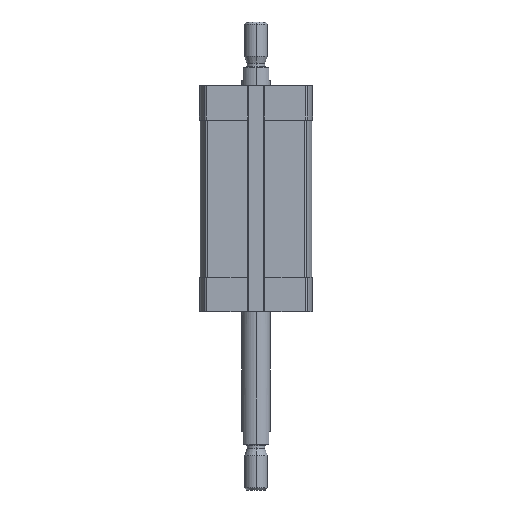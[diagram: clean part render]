
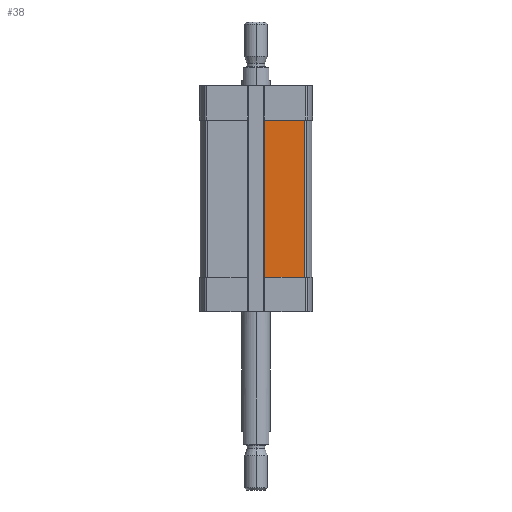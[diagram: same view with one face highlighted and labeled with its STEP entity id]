
A CAD part, left-side view. The second image highlights one B-rep face of the part: STEP entity #38.
In plain terms, the highlighted planar face has unit normal (-1, 0, 0).
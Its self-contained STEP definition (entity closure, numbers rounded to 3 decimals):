
#38 = ADVANCED_FACE ( 'NONE', ( #5824 ), #4008, .T. ) ;
#55 = VECTOR ( 'NONE', #378, 1000. ) ;
#378 = DIRECTION ( 'NONE',  ( 0., 0., 1. ) ) ;
#671 = DIRECTION ( 'NONE',  ( -1., 0., 0. ) ) ;
#1326 = VECTOR ( 'NONE', #9097, 1000. ) ;
#1385 = ORIENTED_EDGE ( 'NONE', *, *, #5516, .T. ) ;
#1822 = DIRECTION ( 'NONE',  ( 0., 0., 1. ) ) ;
#1885 = ORIENTED_EDGE ( 'NONE', *, *, #3596, .F. ) ;
#2138 = VECTOR ( 'NONE', #6248, 1000. ) ;
#2330 = DIRECTION ( 'NONE',  ( 0., -1., 0. ) ) ;
#2571 = CARTESIAN_POINT ( 'NONE',  ( -19.5, -17.091, -12. ) ) ;
#3091 = VERTEX_POINT ( 'NONE', #2571 ) ;
#3240 = CARTESIAN_POINT ( 'NONE',  ( -19.5, -3.1, -67. ) ) ;
#3346 = LINE ( 'NONE', #7333, #2138 ) ;
#3596 = EDGE_CURVE ( 'NONE', #9770, #12059, #5479, .T. ) ;
#4008 = PLANE ( 'NONE',  #9025 ) ;
#4157 = ORIENTED_EDGE ( 'NONE', *, *, #7555, .T. ) ;
#4579 = VERTEX_POINT ( 'NONE', #8937 ) ;
#4703 = ORIENTED_EDGE ( 'NONE', *, *, #13348, .F. ) ;
#5479 = LINE ( 'NONE', #3240, #55 ) ;
#5516 = EDGE_CURVE ( 'NONE', #4579, #3091, #11337, .T. ) ;
#5824 = FACE_OUTER_BOUND ( 'NONE', #7929, .T. ) ;
#6044 = CARTESIAN_POINT ( 'NONE',  ( -19.5, -17.091, -67. ) ) ;
#6248 = DIRECTION ( 'NONE',  ( 0., -1., 0. ) ) ;
#7333 = CARTESIAN_POINT ( 'NONE',  ( -19.5, -3.1, -12. ) ) ;
#7555 = EDGE_CURVE ( 'NONE', #9770, #4579, #11620, .T. ) ;
#7929 = EDGE_LOOP ( 'NONE', ( #4703, #1885, #4157, #1385 ) ) ;
#8937 = CARTESIAN_POINT ( 'NONE',  ( -19.5, -17.091, -67. ) ) ;
#9025 = AXIS2_PLACEMENT_3D ( 'NONE', #10020, #671, #1822 ) ;
#9097 = DIRECTION ( 'NONE',  ( 0., 0., 1. ) ) ;
#9512 = CARTESIAN_POINT ( 'NONE',  ( -19.5, -3.1, -67. ) ) ;
#9770 = VERTEX_POINT ( 'NONE', #12038 ) ;
#10020 = CARTESIAN_POINT ( 'NONE',  ( -19.5, -3.1, -67. ) ) ;
#10893 = VECTOR ( 'NONE', #2330, 1000. ) ;
#11337 = LINE ( 'NONE', #6044, #1326 ) ;
#11595 = CARTESIAN_POINT ( 'NONE',  ( -19.5, -3.1, -12. ) ) ;
#11620 = LINE ( 'NONE', #9512, #10893 ) ;
#12038 = CARTESIAN_POINT ( 'NONE',  ( -19.5, -3.1, -67. ) ) ;
#12059 = VERTEX_POINT ( 'NONE', #11595 ) ;
#13348 = EDGE_CURVE ( 'NONE', #12059, #3091, #3346, .T. ) ;
